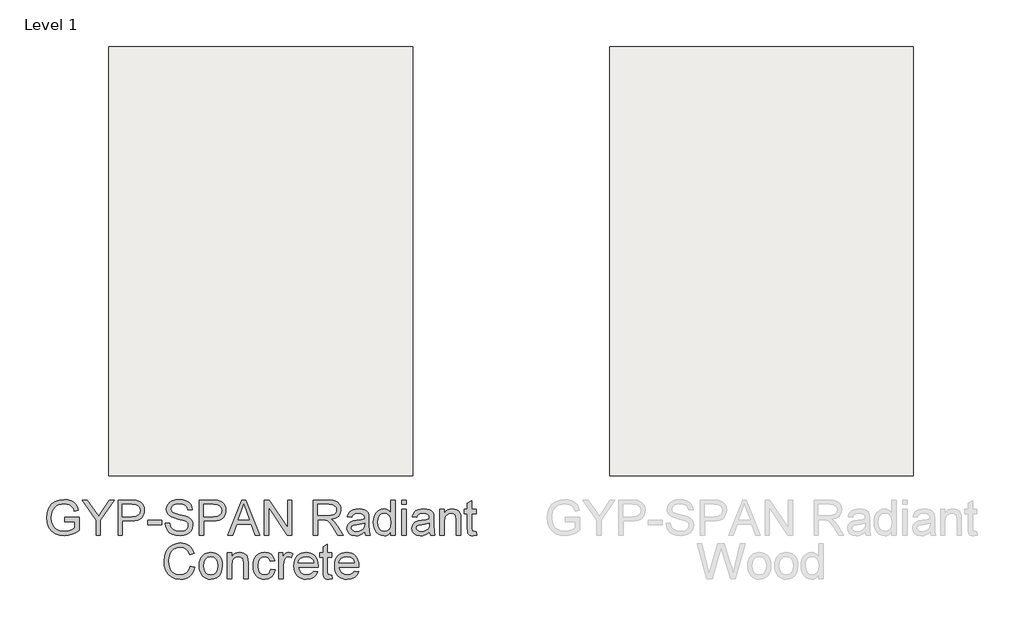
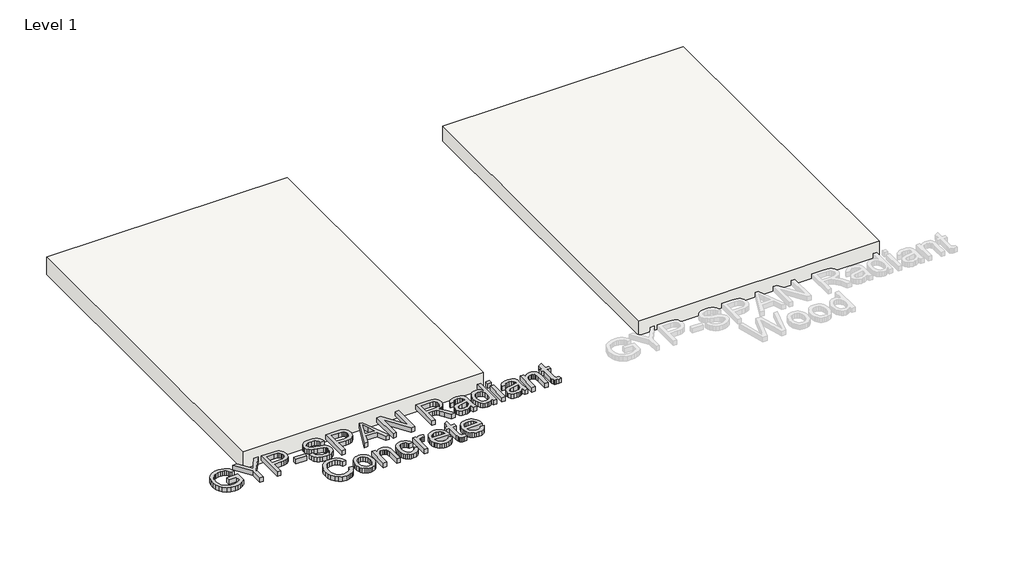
# One storey, part 1 of 2: 2 slabs, 1 proxy.
"""IFC4 building model written with IfcOpenShell, lengths in millimetres."""

import ifcopenshell
import ifcopenshell.guid

model = None  # the IFC model being written
_history = None  # IfcOwnerHistory: only IFC2X3 demands one
_inside = {}  # id of a spatial element -> (the spatial element, [elements in it])
_under = {}  # id of a project, library or spatial element -> (it, [spatial elements below it])
_declared = {}  # id of a project -> (the project, [libraries it declares])
_typed = {}  # id of a type object -> (the type object, [elements of that type])
_made_of = {}  # id of a material, layer set ... -> (it, [elements and type objects made of it])


def new_model(schema):
    """Start an empty IFC model of exactly this schema.

    Asked for "IFC4X3", IfcOpenShell would pick the latest addendum, in which some entities
    have other attributes; the version numbers below select the first issue.
    IFC2X3 requires an IfcOwnerHistory on every rooted entity: one is made here for all.
    """
    global model, _history
    if schema == "IFC4X3":
        model = ifcopenshell.file(schema_version=(4, 3, 0, 0))
    else:
        model = ifcopenshell.file(schema=schema)
    _inside.clear()
    _under.clear()
    _declared.clear()
    _typed.clear()
    _made_of.clear()
    _history = None
    if model.schema == "IFC2X3":
        org = make("IfcOrganization", Name="unknown")
        user = make(
            "IfcPersonAndOrganization",
            ThePerson=make("IfcPerson", FamilyName="unknown"),
            TheOrganization=org,
        )
        app = make(
            "IfcApplication",
            ApplicationDeveloper=org,
            Version="unknown",
            ApplicationFullName="unknown",
            ApplicationIdentifier="unknown",
        )
        _history = make(
            "IfcOwnerHistory",
            OwningUser=user,
            OwningApplication=app,
            ChangeAction="ADDED",
            CreationDate=0,
        )
    return model


def make(cls, **values):
    """One entity of the class cls with the attributes given. An attribute that is None is left unset."""
    return model.create_entity(
        cls, **{name: value for name, value in values.items() if value is not None}
    )


def rooted(cls, **values):
    """An entity with a GlobalId (a new one), such as an element, a storey or a relation."""
    return make(cls, GlobalId=ifcopenshell.guid.new(), OwnerHistory=_history, **values)


def si_unit(unit_type, name, prefix=None):
    """IfcSIUnit, for example si_unit("LENGTHUNIT", "METRE", prefix="MILLI")."""
    return make("IfcSIUnit", UnitType=unit_type, Prefix=prefix, Name=name)


def assignment(units):
    """IfcUnitAssignment: the units of a project."""
    return None if units is None else make("IfcUnitAssignment", Units=units)


def point(xyz):
    """IfcCartesianPoint."""
    return None if xyz is None else make("IfcCartesianPoint", Coordinates=xyz)


def direction(xyz):
    """IfcDirection."""
    return None if xyz is None else make("IfcDirection", DirectionRatios=xyz)


def frame(location, z_axis=None, x_axis=None):
    """IfcAxis2Placement3D, a coordinate frame: its origin and axes. An axis left out is left unset."""
    return make(
        "IfcAxis2Placement3D",
        Location=point(location),
        Axis=direction(z_axis),
        RefDirection=direction(x_axis),
    )


def origin():
    """The frame at (0, 0, 0) with its axes left unset."""
    return frame((0.0, 0.0, 0.0))


def origin_with_axes():
    """The frame at (0, 0, 0) with the z axis (0, 0, 1) and the x axis (1, 0, 0) written out."""
    return frame((0.0, 0.0, 0.0), z_axis=(0.0, 0.0, 1.0), x_axis=(1.0, 0.0, 0.0))


def place(relative_to, where):
    """IfcLocalPlacement: puts the frame where relative to a parent placement (None: the world)."""
    return make(
        "IfcLocalPlacement", PlacementRelTo=relative_to, RelativePlacement=where
    )


def context(
    kind, dimensions, precision=None, world=None, true_north=None, identifier=None
):
    """IfcGeometricRepresentationContext, for example the 3D "Model" context."""
    return make(
        "IfcGeometricRepresentationContext",
        ContextIdentifier=identifier,
        ContextType=kind,
        CoordinateSpaceDimension=dimensions,
        Precision=precision,
        WorldCoordinateSystem=world,
        TrueNorth=true_north,
    )


def project(units=None, contexts=None):
    """IfcProject with its units and contexts."""
    return rooted(
        "IfcProject",
        Name="project",
        RepresentationContexts=contexts,
        UnitsInContext=assignment(units),
    )


def spatial(cls, under=None, at=None, **own):
    """A site, building, storey or space (cls), placed at a placement, below another one or the project."""
    s = rooted(cls, ObjectPlacement=at, **own)
    if under is not None:
        _under.setdefault(under.id(), (under, []))[1].append(s)
    return s


def polyline(points):
    """IfcPolyline through the points."""
    return make("IfcPolyline", Points=[point(p) for p in points])


def outline(outer, holes=None, kind="AREA"):
    """IfcArbitraryClosedProfileDef: a profile drawn as a closed curve; with holes, ...WithVoids."""
    if holes is None:
        return make("IfcArbitraryClosedProfileDef", ProfileType=kind, OuterCurve=outer)
    return make(
        "IfcArbitraryProfileDefWithVoids",
        ProfileType=kind,
        OuterCurve=outer,
        InnerCurves=holes,
    )


def extrude(swept, where, along, depth):
    """IfcExtrudedAreaSolid: the profile swept, set in the frame where, extruded along a direction by depth."""
    return make(
        "IfcExtrudedAreaSolid",
        SweptArea=swept,
        Position=where,
        ExtrudedDirection=direction(along),
        Depth=depth,
    )


def shape(context_of_items, identifier, shape_type, items):
    """IfcShapeRepresentation: the items that make up one representation, for example the "Body"."""
    return make(
        "IfcShapeRepresentation",
        ContextOfItems=context_of_items,
        RepresentationIdentifier=identifier,
        RepresentationType=shape_type,
        Items=items,
    )


def made_of(thing, what):
    """Note that an element or type object is made of a material, layer set ...; save() writes the relation."""
    if what is not None:
        _made_of.setdefault(what.id(), (what, []))[1].append(thing)
    return thing


def element(
    cls,
    number,
    at=None,
    inside=None,
    cuts=None,
    type_object=None,
    material=None,
    context=None,
    identifier="Body",
    shape_type=None,
    held_by="IfcProductDefinitionShape",
    body=None,
    shapes=None,
    **own,
):
    """One element of the class cls, such as IfcWall. Its Tag is "e" and its number.

    at: its placement. inside: the storey or other place that contains it. cuts: it is an
    opening in that element (IfcRelVoidsElement). A single representation is given by context,
    identifier, shape_type and body (its items); several are given by shapes. held_by: the class
    of the entity that holds the representations. save() writes the other relations.
    """
    e = rooted(cls, Tag="e%d" % number, ObjectPlacement=at, **own)
    if body is not None:
        shapes = [shape(context, identifier, shape_type, body)]
    if shapes is not None:
        e.Representation = make(held_by, Representations=shapes)
    if inside is not None:
        _inside.setdefault(inside.id(), (inside, []))[1].append(e)
    if cuts is not None:
        rooted(
            "IfcRelVoidsElement", RelatingBuildingElement=cuts, RelatedOpeningElement=e
        )
    if type_object is not None:
        _typed.setdefault(type_object.id(), (type_object, []))[1].append(e)
    return made_of(e, material)


def aggregate(whole, parts):
    """IfcRelAggregates: a whole, such as a stair, and the parts it consists of."""
    return rooted("IfcRelAggregates", RelatingObject=whole, RelatedObjects=parts)


def save(model, path):
    """Write the relations noted so far, then the file.

    IfcRelAggregates (storeys below a building ...), IfcRelContainedInSpatialStructure (elements
    in a storey), IfcRelDefinesByType, IfcRelAssociatesMaterial and IfcRelDeclares: one each for
    every whole, place, type object, material and project.
    """
    for whole, parts in _under.values():
        aggregate(whole, parts)
    for where, things in _inside.values():
        rooted(
            "IfcRelContainedInSpatialStructure",
            RelatedElements=things,
            RelatingStructure=where,
        )
    for kind, things in _typed.values():
        rooted("IfcRelDefinesByType", RelatedObjects=things, RelatingType=kind)
    for what, things in _made_of.values():
        rooted("IfcRelAssociatesMaterial", RelatedObjects=things, RelatingMaterial=what)
    for by, libraries in _declared.values():
        rooted("IfcRelDeclares", RelatingContext=by, RelatedDefinitions=libraries)
    model.write(path)


model = new_model("IFC4")

# Units and contexts
model_context = context("Model", 3, world=origin())
ifc_project = project(units=[si_unit("LENGTHUNIT", "METRE", prefix="MILLI")], contexts=[model_context])

# Site, building, storey
site = spatial("IfcSite", under=ifc_project)
building = spatial("IfcBuilding", under=site)
storey = spatial("IfcBuildingStorey", under=building, Name="Level 1", Elevation=0.0)

# Proxy
placement = place(None, origin())
element("IfcBuildingElementProxy", 1, Name="600mm Arial", ObjectType="600mm Arial", at=placement, inside=storey, context=model_context, shape_type="SweptSolid", body=[
    extrude(outline(polyline([(-9916.0051572, -2078.2071113), (-9916.0051572, -2040.6932652), (-9794.0851572, -2040.6932652), (-9794.0851572, -2152.8684575), (-9823.7134024, -2173.4754287), (-9854.2758303, -2188.257496), (-9885.6991717, -2197.1597075), (-9917.9101572, -2200.1271113), (-9959.9941717, -2195.4104046), (-9998.0300611, -2181.2602844), (-10029.6274169, -2158.1713181), (-10052.3958303, -2126.6380729), (-10066.1612871, -2088.8128325), (-10070.7497726, -2046.8478806), (-10066.1796044, -2004.5806931), (-10052.4690996, -1965.2625921), (-10030.1860947, -1932.2822796), (-9999.8984265, -1909.0284575), (-9963.0073688, -1895.2355248), (-9920.9141957, -1890.6378806), (-9890.0128976, -1893.3030488), (-9862.2255419, -1901.2985537), (-9838.8251813, -1914.0473998), (-9821.0848688, -1930.9725921), (-9807.9605178, -1952.8892508), (-9798.4080419, -1980.612496), (-9832.9911188, -1990.3573037), (-9840.711864, -1970.58377), (-9850.0994842, -1955.6643229), (-9862.5186188, -1944.417496), (-9879.3339072, -1935.6618229), (-9899.3822005, -1930.0292508), (-9921.5003496, -1928.1517267), (-9947.391864, -1930.1757892), (-9969.5283303, -1936.2479767), (-9987.8273207, -1945.608121), (-10002.2064072, -1957.4960537), (-10021.5128496, -1986.4007652), (-10030.3051572, -2014.7193229), (-10033.2359265, -2045.3092267), (-10029.7098447, -2081.1836738), (-10019.1315996, -2110.7020152), (-10001.8217438, -2133.6536017), (-9978.1008303, -2149.8277844), (-9950.3409505, -2159.416895), (-9920.9141957, -2162.6132652), (-9894.9310947, -2160.2045392), (-9869.5890996, -2152.9783613), (-9847.5808544, -2143.0229046), (-9831.5990034, -2132.4263421), (-9831.5990034, -2078.2071113), (-9916.0051572, -2078.2071113)])), origin_with_axes(), (0.0, 0.0, 1.0), 50.8),
    extrude(outline(polyline([(-9648.7190034, -2195.4378806), (-9648.7190034, -2068.3157652), (-9765.9497726, -1895.3271113), (-9721.6951572, -1895.3271113), (-9659.1232342, -1987.7196113), (-9627.1045803, -2034.8317267), (-9595.0126572, -1984.3492267), (-9538.2290034, -1895.3271113), (-9493.974388, -1895.3271113), (-9611.2051572, -2068.3157652), (-9611.2051572, -2195.4378806), (-9648.7190034, -2195.4378806)])), origin_with_axes(), (0.0, 0.0, 1.0), 50.8),
    extrude(outline(polyline([(-9461.1497726, -2195.4378806), (-9461.1497726, -1895.3271113), (-9349.9270803, -1895.3271113), (-9305.0863111, -1898.1846113), (-9285.0929697, -1903.5241065), (-9268.6348688, -1912.215669), (-9255.3822967, -1924.653121), (-9245.0055419, -1941.2302844), (-9238.3014072, -1960.7840104), (-9236.0666957, -1982.1511498), (-9237.5755839, -2000.573782), (-9242.1022486, -2017.521871), (-9249.6466897, -2032.9954166), (-9260.2089072, -2046.994419), (-9274.7093459, -2058.5984335), (-9294.0684505, -2066.8870152), (-9318.2862209, -2071.8601642), (-9347.3626572, -2073.5178806), (-9423.6359265, -2073.5178806), (-9423.6359265, -2195.4378806), (-9461.1497726, -2195.4378806)]), holes=[polyline([(-9423.6359265, -2036.0040344), (-9345.1645803, -2036.0040344), (-9311.9003496, -2032.5603806), (-9289.9195803, -2022.229419), (-9277.6653015, -2005.6522556), (-9273.5805419, -1983.469996), (-9275.9892678, -1966.6180729), (-9283.2154457, -1952.4038421), (-9294.3615274, -1941.7065344), (-9308.5299649, -1935.4053806), (-9346.0438111, -1932.8409575), (-9423.6359265, -1932.8409575), (-9423.6359265, -2036.0040344)])]), origin_with_axes(), (0.0, 0.0, 1.0), 50.8),
    extrude(outline(polyline([(-9207.9313111, -2106.342496), (-9207.9313111, -2068.8286498), (-9090.7005419, -2068.8286498), (-9090.7005419, -2106.342496), (-9207.9313111, -2106.342496)])), origin_with_axes(), (0.0, 0.0, 1.0), 50.8),
    extrude(outline(polyline([(-9057.8759265, -2092.2748037), (-9020.3620803, -2092.2748037), (-9016.057513, -2113.0924238), (-9008.2726572, -2129.8252844), (-8996.1282822, -2143.1053325), (-8978.7451572, -2153.5645152), (-8957.4970803, -2160.3510777), (-8933.7578496, -2162.6132652), (-8912.8578015, -2160.9005969), (-8894.5588111, -2155.7625921), (-8879.7309505, -2147.6297075), (-8869.2442919, -2136.9323998), (-8863.0072486, -2124.650645), (-8860.9282342, -2111.764419), (-8862.4852053, -2099.2079046), (-8867.1561188, -2088.3548998), (-8876.6444842, -2079.0955008), (-8892.6538111, -2071.3198037), (-8947.2760226, -2056.995669), (-8983.1321524, -2047.5164623), (-9006.0745803, -2038.4951883), (-9024.7490755, -2025.8745633), (-9037.9833303, -2010.5796113), (-9045.8689313, -1992.940044), (-9048.4974649, -1973.2855729), (-9045.2461428, -1951.3139623), (-9035.4921765, -1930.8260537), (-9019.4920082, -1913.461246), (-8997.5020803, -1900.8589383), (-8971.1068399, -1893.193145), (-8941.8907342, -1890.6378806), (-8910.2384265, -1893.3122075), (-8882.5426572, -1901.3351883), (-8859.7925611, -1914.5419671), (-8842.9772726, -1932.7676883), (-8832.3349169, -1954.8766787), (-8828.1036188, -1979.7332652), (-8865.6174649, -1979.7332652), (-8872.5047726, -1957.3495152), (-8886.8655419, -1941.1936498), (-8909.3042438, -1931.4122075), (-8940.4253496, -1928.1517267), (-8972.2791476, -1931.3755729), (-8994.1316957, -1941.0471113), (-9006.770638, -1955.2796594), (-9010.9836188, -1972.1865344), (-9007.9978976, -1986.6022556), (-8999.0407342, -1998.1971113), (-8977.8659265, -2008.5647075), (-8937.7876572, -2019.1521113), (-8896.4271765, -2029.2083133), (-8871.4057342, -2037.9823037), (-8850.0202774, -2051.5920633), (-8835.1008303, -2068.3890344), (-8826.3359986, -2088.190044), (-8823.414388, -2110.811919), (-8826.775614, -2133.93752), (-8836.8592919, -2155.6893229), (-8853.2532822, -2174.4096113), (-8875.5454457, -2188.440669), (-8902.3528255, -2197.2055008), (-8932.2924649, -2200.1271113), (-8969.0461428, -2196.9765344), (-8999.2971765, -2187.5248037), (-9023.3935947, -2171.7352844), (-9041.6834265, -2149.5713421), (-9053.4248207, -2122.5716306), (-9057.8759265, -2092.2748037)])), origin_with_axes(), (0.0, 0.0, 1.0), 50.8),
    extrude(outline(polyline([(-8767.1436188, -2195.4378806), (-8767.1436188, -1895.3271113), (-8655.9209265, -1895.3271113), (-8611.0801572, -1898.1846113), (-8591.0868159, -1903.5241065), (-8574.6287149, -1912.215669), (-8561.3761428, -1924.653121), (-8550.999388, -1941.2302844), (-8544.2952534, -1960.7840104), (-8542.0605419, -1982.1511498), (-8543.5694301, -2000.573782), (-8548.0960947, -2017.521871), (-8555.6405359, -2032.9954166), (-8566.2027534, -2046.994419), (-8580.7031921, -2058.5984335), (-8600.0622967, -2066.8870152), (-8624.2800671, -2071.8601642), (-8653.3565034, -2073.5178806), (-8729.6297726, -2073.5178806), (-8729.6297726, -2195.4378806), (-8767.1436188, -2195.4378806)]), holes=[polyline([(-8729.6297726, -2036.0040344), (-8651.1584265, -2036.0040344), (-8617.8941957, -2032.5603806), (-8595.9134265, -2022.229419), (-8583.6591476, -2005.6522556), (-8579.574388, -1983.469996), (-8581.983114, -1966.6180729), (-8589.2092919, -1952.4038421), (-8600.3553736, -1941.7065344), (-8614.5238111, -1935.4053806), (-8652.0376572, -1932.8409575), (-8729.6297726, -1932.8409575), (-8729.6297726, -2036.0040344)])]), origin_with_axes(), (0.0, 0.0, 1.0), 50.8),
    extrude(outline(polyline([(-8525.4284265, -2195.4378806), (-8405.6332342, -1895.3271113), (-8373.6878496, -1895.3271113), (-8253.8926572, -2195.4378806), (-8293.5313111, -2195.4378806), (-8327.8945803, -2101.6532652), (-8451.4997726, -2101.6532652), (-8485.7897726, -2195.4378806), (-8525.4284265, -2195.4378806)]), holes=[polyline([(-8437.7251572, -2064.139419), (-8341.5959265, -2064.139419), (-8368.6322726, -1990.3573037), (-8389.6605419, -1932.8409575), (-8408.3441957, -1983.9096113), (-8437.7251572, -2064.139419)])]), origin_with_axes(), (0.0, 0.0, 1.0), 50.8),
    extrude(outline(polyline([(-8213.814388, -2195.4378806), (-8213.814388, -1895.3271113), (-8173.6628496, -1895.3271113), (-8016.8666957, -2133.0857652), (-8016.8666957, -1895.3271113), (-7979.3528496, -1895.3271113), (-7979.3528496, -2195.4378806), (-8019.504388, -2195.4378806), (-8176.3005419, -1957.6059575), (-8176.3005419, -2195.4378806), (-8213.814388, -2195.4378806)])), origin_with_axes(), (0.0, 0.0, 1.0), 50.8),
    extrude(outline(polyline([(-7796.4728496, -2195.4378806), (-7796.4728496, -1895.3271113), (-7667.1526572, -1895.3271113), (-7632.3955659, -1897.3511738), (-7607.1085226, -1903.4233613), (-7588.6263592, -1914.6335537), (-7574.2839072, -1932.0716306), (-7565.0794601, -1953.6952123), (-7562.0113111, -1977.461919), (-7567.094364, -2007.0260537), (-7582.3435226, -2031.5346113), (-7593.8948748, -2041.5221234), (-7608.2167197, -2049.5038902), (-7645.171888, -2059.4501883), (-7623.8505419, -2075.4961498), (-7593.4438111, -2114.1090344), (-7543.4009265, -2195.4378806), (-7586.9961188, -2195.4378806), (-7626.0486188, -2133.2323037), (-7654.2572726, -2092.054996), (-7674.0765996, -2072.6020152), (-7691.9176572, -2065.4582652), (-7713.6786188, -2064.139419), (-7758.9590034, -2064.139419), (-7758.9590034, -2195.4378806), (-7796.4728496, -2195.4378806)]), holes=[polyline([(-7758.9590034, -2026.6255729), (-7674.9924649, -2026.6255729), (-7650.8777294, -2025.2975681), (-7632.1665996, -2021.3135537), (-7618.0805899, -2014.4079287), (-7607.8412149, -2004.3150921), (-7601.6041717, -1992.1066065), (-7599.5251572, -1978.8540344), (-7603.4908544, -1960.555044), (-7615.3879457, -1945.8096113), (-7635.8575371, -1936.083121), (-7665.5407342, -1932.8409575), (-7758.9590034, -1932.8409575), (-7758.9590034, -2026.6255729)])]), origin_with_axes(), (0.0, 0.0, 1.0), 50.8),
    extrude(outline(polyline([(-7360.374388, -2167.302496), (-7378.2978736, -2182.6707171), (-7396.7525611, -2192.726919), (-7416.1597486, -2198.2770633), (-7436.9407342, -2200.1271113), (-7468.2908063, -2195.6760056), (-7491.4164072, -2182.3226883), (-7505.6764313, -2162.0454287), (-7510.4297726, -2136.822496), (-7508.6346765, -2121.2711017), (-7503.249388, -2107.1484575), (-7494.942489, -2095.0590344), (-7484.3825611, -2085.6073037), (-7458.1155419, -2073.2980729), (-7425.6572726, -2067.6563421), (-7387.3008303, -2061.7215344), (-7360.5941957, -2054.7609575), (-7360.374388, -2046.4082652), (-7362.9571284, -2029.666246), (-7370.7053496, -2018.712496), (-7388.0335226, -2010.5796113), (-7412.1757342, -2007.8686498), (-7434.5228496, -2009.6729046), (-7450.1291957, -2015.085669), (-7460.7715515, -2025.0960777), (-7468.2266957, -2040.6932652), (-7505.7405419, -2036.0040344), (-7499.228739, -2015.4886498), (-7489.5114072, -1999.369419), (-7475.6818399, -1987.041871), (-7456.8333303, -1977.9015344), (-7433.7809986, -1972.2414863), (-7407.3399649, -1970.3548037), (-7381.9796524, -1972.0216787), (-7361.8764072, -1977.0223037), (-7346.7188351, -1984.5415585), (-7336.1955419, -1993.7643229), (-7329.2166476, -2005.1668469), (-7324.6922726, -2019.2253806), (-7322.8605419, -2052.049996), (-7322.8605419, -2098.722496), (-7320.9555419, -2163.8954767), (-7313.4820803, -2195.4378806), (-7350.9959265, -2195.4378806), (-7360.374388, -2167.302496)]), holes=[polyline([(-7360.374388, -2092.2748037), (-7420.8947726, -2103.7780729), (-7453.1698688, -2109.859419), (-7467.7870803, -2119.7507652), (-7472.9159265, -2134.1848037), (-7470.1225371, -2145.340044), (-7461.7423688, -2154.4803806), (-7447.9585947, -2160.580044), (-7428.954388, -2162.6132652), (-7408.8053496, -2160.369395), (-7391.0009265, -2153.6377844), (-7376.566888, -2143.7189623), (-7366.5290034, -2131.9134575), (-7362.0778976, -2119.7507652), (-7360.5941957, -2102.8988421), (-7360.374388, -2092.2748037)])]), origin_with_axes(), (0.0, 0.0, 1.0), 50.8),
    extrude(outline(polyline([(-7135.2913111, -2195.4378806), (-7135.2913111, -2160.0488421), (-7146.5152414, -2177.5830849), (-7160.111263, -2190.107544), (-7176.079376, -2197.6222195), (-7194.4195803, -2200.1271113), (-7218.6716957, -2196.5002844), (-7240.8722726, -2185.6198037), (-7259.6658303, -2168.2458373), (-7273.696888, -2145.1385537), (-7282.4342438, -2117.2321354), (-7285.3466957, -2085.4607652), (-7282.6632101, -2054.0832171), (-7274.6127534, -2025.7463421), (-7261.2044842, -2002.0620633), (-7242.4475611, -1984.6423037), (-7219.7615755, -1973.9266787), (-7194.5661188, -1970.3548037), (-7176.2121765, -1972.9100681), (-7159.9830419, -1980.5758613), (-7146.2267438, -1992.3264142), (-7135.2913111, -2007.1359575), (-7135.2913111, -1895.3271113), (-7097.7774649, -1895.3271113), (-7097.7774649, -2195.4378806), (-7135.2913111, -2195.4378806)]), holes=[polyline([(-7247.8328496, -2085.3142267), (-7243.6015515, -2119.2470392), (-7230.9076572, -2143.3800921), (-7212.4621284, -2157.8049719), (-7190.9759265, -2162.6132652), (-7169.4988832, -2158.0247796), (-7151.5204457, -2144.2593229), (-7139.3485947, -2121.0604527), (-7135.2913111, -2088.1717267), (-7139.421864, -2052.2148517), (-7151.8135226, -2027.284996), (-7170.2498928, -2012.7227363), (-7192.5145803, -2007.8686498), (-7214.2205899, -2012.5304046), (-7232.0066957, -2026.515669), (-7243.8763111, -2050.5388181), (-7247.8328496, -2085.3142267)])]), origin_with_axes(), (0.0, 0.0, 1.0), 50.8),
    extrude(outline(polyline([(-7041.5066957, -2195.4378806), (-7041.5066957, -1975.0440344), (-7003.9928496, -1975.0440344), (-7003.9928496, -2195.4378806), (-7041.5066957, -2195.4378806)])), origin_with_axes(), (0.0, 0.0, 1.0), 50.8),
    extrude(outline(polyline([(-7041.5066957, -1932.8409575), (-7041.5066957, -1895.3271113), (-7003.9928496, -1895.3271113), (-7003.9928496, -1932.8409575), (-7041.5066957, -1932.8409575)])), origin_with_axes(), (0.0, 0.0, 1.0), 50.8),
    extrude(outline(polyline([(-6807.0451572, -2167.302496), (-6824.9686428, -2182.6707171), (-6843.4233303, -2192.726919), (-6862.8305178, -2198.2770633), (-6883.6115034, -2200.1271113), (-6914.9615755, -2195.6760056), (-6938.0871765, -2182.3226883), (-6952.3472005, -2162.0454287), (-6957.1005419, -2136.822496), (-6955.3054457, -2121.2711017), (-6949.9201572, -2107.1484575), (-6941.6132582, -2095.0590344), (-6931.0533303, -2085.6073037), (-6904.7863111, -2073.2980729), (-6872.3280419, -2067.6563421), (-6833.9715996, -2061.7215344), (-6807.2649649, -2054.7609575), (-6807.0451572, -2046.4082652), (-6809.6278976, -2029.666246), (-6817.3761188, -2018.712496), (-6834.7042919, -2010.5796113), (-6858.8465034, -2007.8686498), (-6881.1936188, -2009.6729046), (-6896.7999649, -2015.085669), (-6907.4423207, -2025.0960777), (-6914.8974649, -2040.6932652), (-6952.4113111, -2036.0040344), (-6945.8995082, -2015.4886498), (-6936.1821765, -1999.369419), (-6922.3526092, -1987.041871), (-6903.5040996, -1977.9015344), (-6880.4517678, -1972.2414863), (-6854.0107342, -1970.3548037), (-6828.6504217, -1972.0216787), (-6808.5471765, -1977.0223037), (-6793.3896044, -1984.5415585), (-6782.8663111, -1993.7643229), (-6775.8874169, -2005.1668469), (-6771.3630419, -2019.2253806), (-6769.5313111, -2052.049996), (-6769.5313111, -2098.722496), (-6767.6263111, -2163.8954767), (-6760.1528496, -2195.4378806), (-6797.6666957, -2195.4378806), (-6807.0451572, -2167.302496)]), holes=[polyline([(-6807.0451572, -2092.2748037), (-6867.5655419, -2103.7780729), (-6899.840638, -2109.859419), (-6914.4578496, -2119.7507652), (-6919.5866957, -2134.1848037), (-6916.7933063, -2145.340044), (-6908.413138, -2154.4803806), (-6894.629364, -2160.580044), (-6875.6251572, -2162.6132652), (-6855.4761188, -2160.369395), (-6837.6716957, -2153.6377844), (-6823.2376572, -2143.7189623), (-6813.1997726, -2131.9134575), (-6808.7486669, -2119.7507652), (-6807.2649649, -2102.8988421), (-6807.0451572, -2092.2748037)])]), origin_with_axes(), (0.0, 0.0, 1.0), 50.8),
    extrude(outline(polyline([(-6717.9497726, -2195.4378806), (-6717.9497726, -1975.0440344), (-6680.4359265, -1975.0440344), (-6680.4359265, -2005.8171113), (-6667.4031621, -1990.3023517), (-6651.7510226, -1979.2203806), (-6633.4795082, -1972.5711979), (-6612.5886188, -1970.3548037), (-6594.0972967, -1972.1407412), (-6577.1629457, -1977.4985537), (-6563.0403015, -1985.7596594), (-6552.9840996, -1996.2554767), (-6541.7372726, -2023.8413421), (-6539.7590034, -2060.1096113), (-6539.7590034, -2195.4378806), (-6577.2728496, -2195.4378806), (-6577.2728496, -2065.1651883), (-6581.5957342, -2031.9742267), (-6587.5763351, -2022.0920392), (-6596.8723688, -2014.426246), (-6608.7877774, -2009.5080488), (-6622.6265034, -2007.8686498), (-6644.598114, -2011.5504287), (-6663.3275611, -2022.5957652), (-6670.8124709, -2031.6124599), (-6676.1588351, -2043.9354287), (-6680.4359265, -2078.5001883), (-6680.4359265, -2195.4378806), (-6717.9497726, -2195.4378806)])), origin_with_axes(), (0.0, 0.0, 1.0), 50.8),
    extrude(outline(polyline([(-6408.4605419, -2164.151919), (-6403.7713111, -2196.536919), (-6431.8334265, -2200.1271113), (-6449.8393399, -2198.5701402), (-6463.2659265, -2193.8992267), (-6472.7542919, -2186.7005248), (-6478.9455419, -2177.5601883), (-6482.3525611, -2161.8622556), (-6483.4882342, -2134.9907652), (-6483.4882342, -2012.5578806), (-6511.6236188, -2012.5578806), (-6511.6236188, -1975.0440344), (-6483.4882342, -1975.0440344), (-6483.4882342, -1921.4842267), (-6445.974388, -1899.4301883), (-6445.974388, -1975.0440344), (-6408.4605419, -1975.0440344), (-6408.4605419, -2012.5578806), (-6445.974388, -2012.5578806), (-6445.974388, -2133.8917267), (-6443.9961188, -2153.2348037), (-6437.5850611, -2160.0854767), (-6424.7995803, -2162.6132652), (-6408.4605419, -2164.151919)])), origin_with_axes(), (0.0, 0.0, 1.0), 50.8),
    extrude(outline(polyline([(-8844.5159265, -2459.2071113), (-8807.0020803, -2468.8786498), (-8814.4251693, -2492.2080308), (-8824.3119361, -2512.5929046), (-8836.6623808, -2530.0332712), (-8851.4765034, -2544.5291306), (-8868.420013, -2555.9247856), (-8887.1586188, -2564.0645392), (-8907.6923207, -2568.9483914), (-8930.0211188, -2570.5763421), (-8973.5338832, -2565.6489863), (-9008.0894842, -2550.866919), (-9034.5763111, -2526.7430248), (-9053.8827534, -2493.7901883), (-9065.6699409, -2455.0490825), (-9069.5990034, -2413.5603806), (-9065.1570563, -2369.8003325), (-9051.8312149, -2332.0117267), (-9030.3175371, -2301.3943469), (-9001.3120803, -2279.1479767), (-8966.9121765, -2265.6023277), (-8929.2151572, -2261.0871113), (-8888.0836428, -2266.9303325), (-8870.1899229, -2274.2343589), (-8854.0775611, -2284.459996), (-8840.0121584, -2297.3370633), (-8828.2593159, -2312.5953806), (-8811.6913111, -2350.2557652), (-8849.2051572, -2359.1946113), (-8862.2104457, -2331.8377123), (-8879.9782342, -2313.0716306), (-8902.7283303, -2302.2186258), (-8930.6805419, -2298.6009575), (-8962.9006861, -2302.6124479), (-8989.3691957, -2314.646919), (-9009.4541236, -2333.4404767), (-9022.5235226, -2357.7292267), (-9029.6947486, -2385.186871), (-9032.0851572, -2413.4871113), (-9029.2551332, -2448.1434575), (-9020.7650611, -2478.1105729), (-9006.294388, -2502.2436258), (-8985.5225611, -2519.3977844), (-8960.6201813, -2529.6463181), (-8933.7578496, -2533.062496), (-8902.4444121, -2528.4098998), (-8876.3514072, -2514.4521113), (-8856.6511428, -2491.335669), (-8844.5159265, -2459.2071113)])), origin_with_axes(), (0.0, 0.0, 1.0), 50.8),
    extrude(outline(polyline([(-8769.4882342, -2455.6901883), (-8767.4595923, -2427.1472436), (-8761.3736669, -2402.5516787), (-8751.2304577, -2381.9034936), (-8737.0299649, -2365.2026883), (-8722.7333063, -2354.5282772), (-8706.9529457, -2346.9036979), (-8689.6888832, -2342.3289503), (-8670.9411188, -2340.8040344), (-8650.2448508, -2342.6609515), (-8631.5314313, -2348.2317027), (-8614.8008604, -2357.516288), (-8600.053138, -2370.5147075), (-8588.0163772, -2386.7873457), (-8579.4186909, -2405.8945873), (-8574.2600791, -2427.8364323), (-8572.5405419, -2452.6128806), (-8575.5812149, -2490.5113902), (-8584.7032342, -2519.3611498), (-8599.6409986, -2540.9664142), (-8620.1289072, -2557.1314383), (-8644.4634505, -2567.2151162), (-8670.9411188, -2570.5763421), (-8691.9396224, -2568.726294), (-8710.8270563, -2563.1761498), (-8727.6034205, -2553.9259094), (-8742.2687149, -2540.9755729), (-8754.1772546, -2524.5449479), (-8762.6833544, -2504.8538421), (-8767.7870142, -2481.9022556), (-8769.4882342, -2455.6901883)]), holes=[polyline([(-8731.974388, -2455.616919), (-8727.6331861, -2489.5680488), (-8714.6095803, -2513.7560537), (-8695.0100611, -2528.2358854), (-8670.9411188, -2533.062496), (-8646.9820803, -2528.2084094), (-8627.4191957, -2513.6461498), (-8614.3955899, -2489.1375921), (-8610.054388, -2454.4446113), (-8614.4230659, -2421.4826162), (-8627.5290996, -2397.6243229), (-8647.1194601, -2383.1444912), (-8670.9411188, -2378.3178806), (-8695.0100611, -2383.1261738), (-8714.6095803, -2397.5510537), (-8727.6331861, -2421.6841065), (-8731.974388, -2455.616919)])]), origin_with_axes(), (0.0, 0.0, 1.0), 50.8),
    extrude(outline(polyline([(-8530.3374649, -2565.8871113), (-8530.3374649, -2345.4932652), (-8492.8236188, -2345.4932652), (-8492.8236188, -2376.2663421), (-8479.7908544, -2360.7515825), (-8464.1387149, -2349.6696113), (-8445.8672005, -2343.0204287), (-8424.9763111, -2340.8040344), (-8406.484989, -2342.5899719), (-8389.550638, -2347.9477844), (-8375.4279938, -2356.2088902), (-8365.3717919, -2366.7047075), (-8354.1249649, -2394.2905729), (-8352.1466957, -2430.5588421), (-8352.1466957, -2565.8871113), (-8389.6605419, -2565.8871113), (-8389.6605419, -2435.614419), (-8393.9834265, -2402.4234575), (-8399.9640274, -2392.54127), (-8409.2600611, -2384.8754767), (-8421.1754697, -2379.9572796), (-8435.0141957, -2378.3178806), (-8456.9858063, -2381.9996594), (-8475.7152534, -2393.044996), (-8483.2001633, -2402.0616907), (-8488.5465274, -2414.3846594), (-8492.8236188, -2448.949419), (-8492.8236188, -2565.8871113), (-8530.3374649, -2565.8871113)])), origin_with_axes(), (0.0, 0.0, 1.0), 50.8),
    extrude(outline(polyline([(-8159.8882342, -2486.1701883), (-8122.374388, -2490.859419), (-8132.8335707, -2524.224395), (-8152.4880419, -2549.438169), (-8179.4877534, -2565.2917988), (-8211.9826572, -2570.5763421), (-8233.0223748, -2568.733163), (-8251.8869121, -2563.2036258), (-8268.576269, -2553.9877303), (-8283.0904457, -2541.0854767), (-8294.8387089, -2524.7395693), (-8303.2303255, -2505.1927123), (-8308.2652955, -2482.4449058), (-8309.9436188, -2456.4961498), (-8307.0769601, -2423.1128565), (-8298.4769842, -2394.180669), (-8284.0063111, -2370.8169431), (-8263.5275611, -2354.1390344), (-8239.0281621, -2344.1377844), (-8212.4955419, -2340.8040344), (-8180.7974409, -2345.3833613), (-8155.4554457, -2359.1213421), (-8137.2755178, -2381.2852844), (-8127.0636188, -2411.142496), (-8164.5774649, -2415.8317267), (-8171.3823447, -2399.4652123), (-8181.9789072, -2387.7329767), (-8195.7809986, -2380.6716546), (-8212.2024649, -2378.3178806), (-8236.4454217, -2382.9521594), (-8255.6877534, -2396.854996), (-8268.2442678, -2420.7773998), (-8272.4297726, -2455.4703806), (-8268.3358544, -2490.6304527), (-8256.0540996, -2514.6352844), (-8237.1597967, -2528.4556931), (-8213.2282342, -2533.062496), (-8193.8027294, -2530.1866787), (-8177.8758303, -2521.5592267), (-8166.2901332, -2506.9603325), (-8159.8882342, -2486.1701883)])), origin_with_axes(), (0.0, 0.0, 1.0), 50.8),
    extrude(outline(polyline([(-8089.5497726, -2565.8871113), (-8089.5497726, -2345.4932652), (-8056.7251572, -2345.4932652), (-8056.7251572, -2378.0980729), (-8044.5990996, -2359.1946113), (-8033.4255419, -2348.0576883), (-8022.2153496, -2342.6174479), (-8009.979388, -2340.8040344), (-7991.2957342, -2343.698169), (-7972.3190034, -2352.3805729), (-7984.8480419, -2386.0111498), (-7998.0365034, -2380.2411979), (-8011.2249649, -2378.3178806), (-8022.4259986, -2380.1679287), (-8032.4364072, -2385.7180729), (-8040.5234986, -2394.5470152), (-8045.9545803, -2406.2334575), (-8050.5155899, -2427.1884575), (-8052.0359265, -2450.0484575), (-8052.0359265, -2565.8871113), (-8089.5497726, -2565.8871113)])), origin_with_axes(), (0.0, 0.0, 1.0), 50.8),
    extrude(outline(polyline([(-7794.5678496, -2500.2378806), (-7757.7866957, -2504.9271113), (-7771.0392678, -2532.6411979), (-7792.1865996, -2553.3580729), (-7820.7524409, -2566.2717748), (-7856.2605419, -2570.5763421), (-7879.5372606, -2568.719425), (-7900.2770322, -2563.1486738), (-7918.4798568, -2553.8640885), (-7934.1457342, -2540.865669), (-7946.7434625, -2524.5151823), (-7955.7418399, -2505.174395), (-7961.1408664, -2482.8433073), (-7962.9405419, -2457.521919), (-7961.1225491, -2431.341907), (-7955.6685707, -2408.2666787), (-7946.5786068, -2388.2962339), (-7933.8526572, -2371.4305729), (-7918.2279938, -2358.0314623), (-7900.441888, -2348.460669), (-7880.4943399, -2342.7181931), (-7858.3853496, -2340.8040344), (-7836.9884445, -2342.7136138), (-7817.6384986, -2348.4423517), (-7800.3355118, -2357.9902484), (-7785.0794842, -2371.3573037), (-7772.6260046, -2388.1863301), (-7763.7306621, -2408.1201402), (-7758.3934565, -2431.1587339), (-7756.614388, -2457.3021113), (-7756.8341957, -2467.4132652), (-7925.4266957, -2467.4132652), (-7918.9332101, -2495.4936979), (-7903.8489072, -2516.1373037), (-7882.0787871, -2528.8311979), (-7855.5278496, -2533.062496), (-7835.5619842, -2531.102544), (-7818.7466957, -2525.2226883), (-7805.0819842, -2515.0565825), (-7794.5678496, -2500.2378806)]), holes=[polyline([(-7925.4266957, -2429.899419), (-7794.1282342, -2429.899419), (-7799.2021284, -2410.0800921), (-7809.1484265, -2395.902496), (-7831.0192919, -2382.7140344), (-7858.531888, -2378.3178806), (-7883.8189313, -2381.825645), (-7904.728138, -2392.3489383), (-7919.2629217, -2408.7520873), (-7925.4266957, -2429.899419)])]), origin_with_axes(), (0.0, 0.0, 1.0), 50.8),
    extrude(outline(polyline([(-7639.3836188, -2534.6011498), (-7634.694388, -2566.9861498), (-7662.7565034, -2570.5763421), (-7680.7624169, -2569.019371), (-7694.1890034, -2564.3484575), (-7703.6773688, -2557.1497556), (-7709.8686188, -2548.009419), (-7713.275638, -2532.3114863), (-7714.4113111, -2505.439996), (-7714.4113111, -2383.0071113), (-7742.5466957, -2383.0071113), (-7742.5466957, -2345.4932652), (-7714.4113111, -2345.4932652), (-7714.4113111, -2291.9334575), (-7676.8974649, -2269.879419), (-7676.8974649, -2345.4932652), (-7639.3836188, -2345.4932652), (-7639.3836188, -2383.0071113), (-7676.8974649, -2383.0071113), (-7676.8974649, -2504.3409575), (-7674.9191957, -2523.6840344), (-7668.508138, -2530.5347075), (-7655.7226572, -2533.062496), (-7639.3836188, -2534.6011498)])), origin_with_axes(), (0.0, 0.0, 1.0), 50.8),
    extrude(outline(polyline([(-7447.5647726, -2500.2378806), (-7410.7836188, -2504.9271113), (-7424.0361909, -2532.6411979), (-7445.1835226, -2553.3580729), (-7473.749364, -2566.2717748), (-7509.2574649, -2570.5763421), (-7532.5341837, -2568.719425), (-7553.2739553, -2563.1486738), (-7571.4767798, -2553.8640885), (-7587.1426572, -2540.865669), (-7599.7403856, -2524.5151823), (-7608.738763, -2505.174395), (-7614.1377895, -2482.8433073), (-7615.9374649, -2457.521919), (-7614.1194721, -2431.341907), (-7608.6654938, -2408.2666787), (-7599.5755298, -2388.2962339), (-7586.8495803, -2371.4305729), (-7571.2249169, -2358.0314623), (-7553.4388111, -2348.460669), (-7533.491263, -2342.7181931), (-7511.3822726, -2340.8040344), (-7489.9853676, -2342.7136138), (-7470.6354217, -2348.4423517), (-7453.3324349, -2357.9902484), (-7438.0764072, -2371.3573037), (-7425.6229277, -2388.1863301), (-7416.7275851, -2408.1201402), (-7411.3903796, -2431.1587339), (-7409.6113111, -2457.3021113), (-7409.8311188, -2467.4132652), (-7578.4236188, -2467.4132652), (-7571.9301332, -2495.4936979), (-7556.8458303, -2516.1373037), (-7535.0757101, -2528.8311979), (-7508.5247726, -2533.062496), (-7488.5589072, -2531.102544), (-7471.7436188, -2525.2226883), (-7458.0789072, -2515.0565825), (-7447.5647726, -2500.2378806)]), holes=[polyline([(-7578.4236188, -2429.899419), (-7447.1251572, -2429.899419), (-7452.1990515, -2410.0800921), (-7462.1453496, -2395.902496), (-7484.0162149, -2382.7140344), (-7511.5288111, -2378.3178806), (-7536.8158544, -2381.825645), (-7557.7250611, -2392.3489383), (-7572.2598447, -2408.7520873), (-7578.4236188, -2429.899419)])]), origin_with_axes(), (0.0, 0.0, 1.0), 50.8),
])

# Slabs
element("IfcSlab", 2, ObjectType="Hacker - Concrete - Subfloor Underlayment - GYP-SPAN Radiant", at=placement, inside=storey, context=model_context, shape_type="SweptSolid", body=[
    extrude(outline(polyline([(-6948.894388, 1970.1621194), (-6948.894388, -1687.4378806), (-9539.694388, -1687.4378806), (-9539.694388, 1970.1621194), (-6948.894388, 1970.1621194)])), frame((0.0, 0.0, -196.9492188), z_axis=(0.0, 0.0, 1.0), x_axis=(1.0, 0.0, 0.0)), (0.0, 0.0, 1.0), 196.9492188),
])
element("IfcSlab", 3, ObjectType="Hacker - Wood - Subfloor Underlayment - GYP-SPAN Radiant", at=placement, inside=storey, context=model_context, shape_type="SweptSolid", body=[
    extrude(outline(polyline([(-2681.694388, 1970.1621194), (-2681.694388, -1687.4378806), (-5272.494388, -1687.4378806), (-5272.494388, 1970.1621194), (-2681.694388, 1970.1621194)])), frame((0.0, 0.0, -168.4734375), z_axis=(0.0, 0.0, 1.0), x_axis=(1.0, 0.0, 0.0)), (0.0, 0.0, 1.0), 168.4734375),
])

save(model, "model.ifc")
